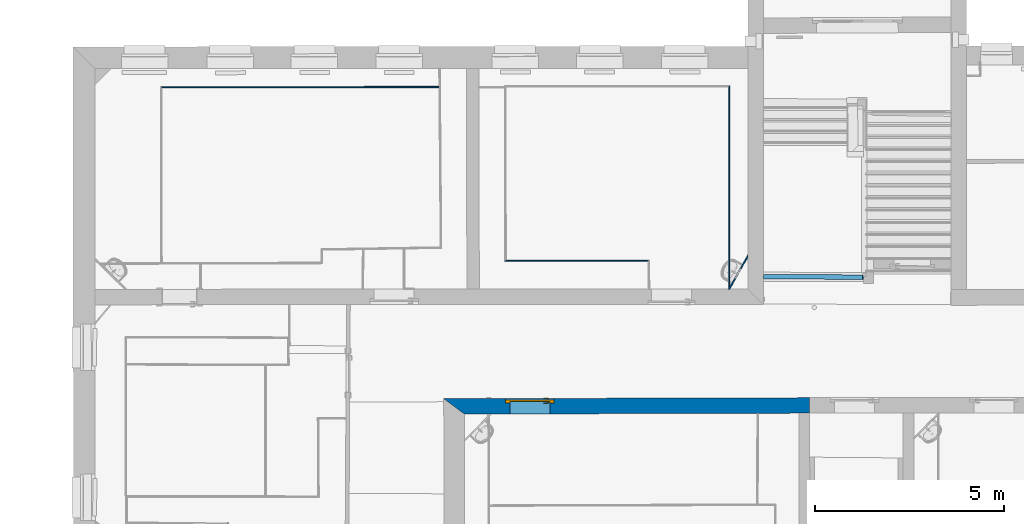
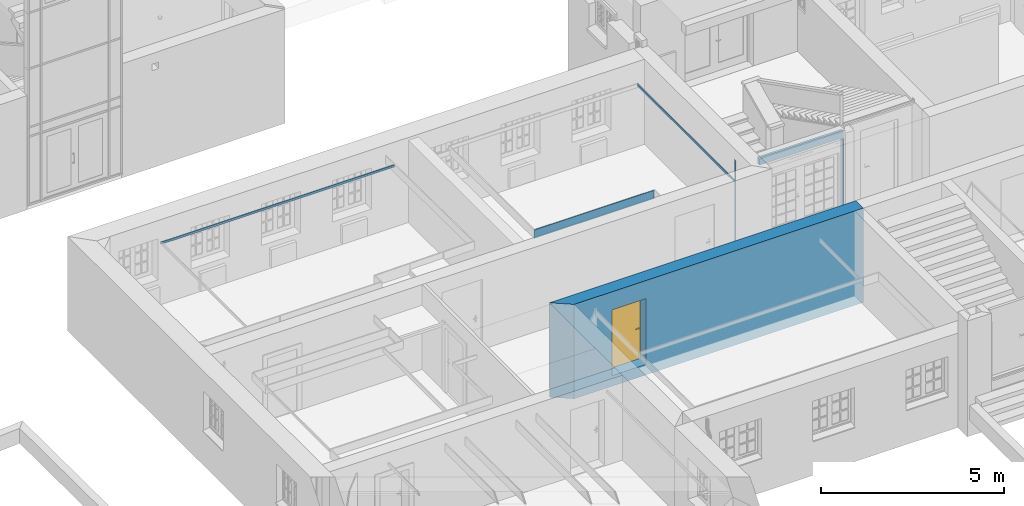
# One storey, part 25 of 196: 6 walls, 1 door, 3 openings.
"""IFC2X3 building model written with IfcOpenShell, lengths in metres."""

from ifc_helpers import new_model, entity, si_unit, converted_unit, derived_unit, money_unit, direction, frame, origin_with_axes, origin_2d_with_axis, place, context, subcontext, project, spatial, polyline, rectangle, outline, extrude, faceted_brep, source, transform, mapped, material, layer, layer_set, layer_usage, type_object, element, fill, save


model = new_model("IFC2X3")

# Units and contexts
model_context = context("Model", 3, precision=1e-05, world=origin_with_axes(), true_north=direction((0.0, 1.0)))
body_context = subcontext(model_context, "Body", "Model", "MODEL_VIEW")
ifc_project = project(units=[si_unit("LENGTHUNIT", "METRE"), si_unit("AREAUNIT", "SQUARE_METRE"), si_unit("VOLUMEUNIT", "CUBIC_METRE"), converted_unit("PLANEANGLEUNIT", "DEGREE", entity("IfcPlaneAngleMeasure", 0.0174532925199), si_unit("PLANEANGLEUNIT", "RADIAN"), dimensions=[0, 0, 0, 0, 0, 0, 0]), money_unit("EUR"), converted_unit("TIMEUNIT", "Year", entity("IfcTimeMeasure", 31556926.0), si_unit("TIMEUNIT", "SECOND"), dimensions=[0, 0, 1, 0, 0, 0, 0]), si_unit("MASSUNIT", "GRAM", prefix="KILO"), si_unit("THERMODYNAMICTEMPERATUREUNIT", "DEGREE_CELSIUS"), si_unit("LUMINOUSINTENSITYUNIT", "LUMEN"), si_unit("ENERGYUNIT", "JOULE", prefix="MEGA"), derived_unit("THERMALCONDUCTANCEUNIT", [(si_unit("POWERUNIT", "WATT"), 1), (si_unit("LENGTHUNIT", "METRE"), -1), (si_unit("THERMODYNAMICTEMPERATUREUNIT", "KELVIN"), -1)]), derived_unit("SPECIFICHEATCAPACITYUNIT", [(si_unit("ENERGYUNIT", "JOULE"), 1), (si_unit("MASSUNIT", "GRAM", prefix="KILO"), -1), (si_unit("THERMODYNAMICTEMPERATUREUNIT", "KELVIN"), -1)]), derived_unit("MASSDENSITYUNIT", [(si_unit("MASSUNIT", "GRAM", prefix="KILO"), 1), (si_unit("VOLUMEUNIT", "CUBIC_METRE"), -1)])], contexts=[model_context])

# Site, building, storey
site_placement = place(None, origin_with_axes())
site = spatial("IfcSite", under=ifc_project, at=site_placement, Name="Gelände", CompositionType="ELEMENT")
building_placement = place(site_placement, origin_with_axes())
building = spatial("IfcBuilding", under=site, at=building_placement, Name="Gebäude", CompositionType="ELEMENT")
storey_placement = place(building_placement, frame((0.0, 0.0, -3.0), z_axis=(0.0, 0.0, 1.0), x_axis=(1.0, 0.0, 0.0)))
storey = spatial("IfcBuildingStorey", under=building, at=storey_placement, Name="KELLERGESCHOSS", CompositionType="ELEMENT", Elevation=-3.0)

# Wall, opening
ifc_material_1 = material(Name="05_ALLGEMEIN - TRAGENDE BAUTEILE")
ifc_layer_1 = layer(ifc_material_1, 0.12, ventilated="UNKNOWN")
ifc_layer_set_1 = layer_set([ifc_layer_1], Name="05_ALLGEMEIN - TRAGENDE BAUTEILE 0.12")
ifc_layer_usage_1 = layer_usage(ifc_layer_set_1, "AXIS2", "NEGATIVE", 0.12)
wall_type_1 = type_object("IfcWallType", Name="05_ALLGEMEIN - TRAGENDE BAUTEILE 120", PredefinedType="ELEMENTEDWALL")
wall_1_placement = place(storey_placement, frame((-9.84154445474, 19.9397256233, -0.36), z_axis=(0.0, 0.0, 1.0), x_axis=(0.999998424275, -0.00177523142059, 0.0)))
wall_1 = element("IfcWallStandardCase", 1, at=wall_1_placement, inside=storey, type_object=wall_type_1, material=ifc_layer_usage_1, Name="Wand-038", ObjectType="ELEMENTEDWALL", context=body_context, shape_type="SweptSolid", body=[
    extrude(outline(polyline([(0.0, 0.0), (2.64868217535, 0.0), (2.64846914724, 0.12), (-0.000224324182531, 0.12), (0.0, 0.0)])), origin_with_axes(), (0.0, 0.0, 1.0), 3.065),
])
opening_1_placement = place(wall_1_placement, frame((1.31235316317, 0.0, 0.326736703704), z_axis=(0.0, 0.0, 1.0), x_axis=(1.0, 0.0, 0.0)))
element("IfcOpeningElement", 2, at=opening_1_placement, cuts=wall_1, Name="Tür-023", context=body_context, shape_type="SweptSolid", body=[
    extrude(rectangle(XDim=2.62758657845, YDim=2.53, at=origin_2d_with_axis()), frame((0.0, 0.12, 1.265), z_axis=(0.0, 1.0, 0.0), x_axis=(-1.0, 0.0, 0.0)), (0.0, 0.0, -1.0), 0.36),
])

ifc_material_2 = material(Name="43_Gipskarton")
ifc_layer_2 = layer(ifc_material_2, 0.03, ventilated="UNKNOWN")
ifc_layer_set_2 = layer_set([ifc_layer_2], Name="43_Gipskarton 0.03")
ifc_layer_usage_2 = layer_usage(ifc_layer_set_2, "AXIS2", "NEGATIVE", 0.0)
wall_type_2 = type_object("IfcWallType", Name="43_Gipskarton 30", PredefinedType="ELEMENTEDWALL")
wall_2_placement = place(storey_placement, frame((-10.9995468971, 19.2656639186, -0.0458857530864), z_axis=(0.0, 0.0, 1.0), x_axis=(0.493160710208, 0.86993822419, 0.0)))
wall_2 = element("IfcWallStandardCase", 3, at=wall_2_placement, inside=storey, type_object=wall_type_2, material=ifc_layer_usage_2, Name="Wand-038", ObjectType="ELEMENTEDWALL", context=body_context, shape_type="SweptSolid", body=[
    extrude(outline(polyline([(0.488389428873, -0.03), (1.46372016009, -0.03), (1.51662871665, 0.0), (0.47137171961, 0.0), (0.488389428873, -0.03)])), origin_with_axes(), (0.0, 0.0, 1.0), 2.48588575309),
])
opening_2_placement = place(wall_2_placement, frame((0.952164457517, 0.0, 0.118209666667), z_axis=(0.0, 0.0, 1.0), x_axis=(1.0, 0.0, 0.0)))
element("IfcOpeningElement", 4, at=opening_2_placement, cuts=wall_2, Name="Tür-022", context=body_context, shape_type="SweptSolid", body=[
    extrude(rectangle(XDim=0.302127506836, YDim=0.291513, at=origin_2d_with_axis()), frame((0.0, 0.03, 0.1457565), z_axis=(0.0, -1.0, 0.0), x_axis=(1.0, 0.0, 0.0)), (0.0, 0.0, 1.0), 0.09),
])

# Walls
ifc_layer_usage_3 = layer_usage(ifc_layer_set_2, "AXIS2", "NEGATIVE", 0.0)
wall_3_placement = place(storey_placement, frame((-18.4316939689, 25.0137516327, 2.37), z_axis=(0.0, 0.0, 1.0), x_axis=(-0.999999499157, -0.00100084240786, 0.0)))
element("IfcWallStandardCase", 5, at=wall_3_placement, inside=storey, type_object=wall_type_2, material=ifc_layer_usage_3, Name="Wand-043", ObjectType="ELEMENTEDWALL", context=body_context, shape_type="SweptSolid", body=[
    extrude(outline(polyline([(0.000212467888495, -0.03), (7.37599516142, -0.03), (7.34597285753, 0.0), (0.0, 0.0), (0.000212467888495, -0.03)])), origin_with_axes(), (0.0, 0.0, 1.0), 0.07),
])
ifc_layer_usage_4 = layer_usage(ifc_layer_set_2, "AXIS2", "NEGATIVE", 0.0)
wall_4_placement = place(storey_placement, frame((-16.657180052, 20.4414497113, 2.16), z_axis=(0.0, 0.0, 1.0), x_axis=(0.99999988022, 0.000489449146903, 0.0)))
element("IfcWallStandardCase", 6, at=wall_4_placement, inside=storey, type_object=wall_type_2, material=ifc_layer_usage_4, Name="Wand-043", ObjectType="ELEMENTEDWALL", context=body_context, shape_type="SweptSolid", body=[
    extrude(outline(polyline([(-0.0299651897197, -0.03), (3.75866662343, -0.03), (3.78811418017, 0.0), (0.0, 0.0), (-0.0299651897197, -0.03)])), origin_with_axes(), (0.0, 0.0, 1.0), 0.28),
])
ifc_layer_usage_5 = layer_usage(ifc_layer_set_2, "AXIS2", "NEGATIVE", 0.0)
wall_5_placement = place(storey_placement, frame((-10.7570291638, 19.6934665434, 2.37), z_axis=(0.0, 0.0, 1.0), x_axis=(-0.000943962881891, 0.999999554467, 0.0)))
element("IfcWallStandardCase", 7, at=wall_5_placement, inside=storey, type_object=wall_type_2, material=ifc_layer_usage_5, Name="Wand-045", ObjectType="ELEMENTEDWALL", context=body_context, shape_type="SweptSolid", body=[
    extrude(outline(polyline([(0.0528039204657, -0.03), (5.36988649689, -0.03), (5.33993836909, 0.0), (0.0, 0.0), (0.0528039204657, -0.03)])), origin_with_axes(), (0.0, 0.0, 1.0), 0.07),
])

# Wall, opening, door
ifc_layer_3 = layer(ifc_material_1, 0.41, ventilated="UNKNOWN")
ifc_layer_set_3 = layer_set([ifc_layer_3], Name="05_ALLGEMEIN - TRAGENDE BAUTEILE 0.41")
ifc_layer_usage_6 = layer_usage(ifc_layer_set_3, "AXIS2", "POSITIVE", -0.41)
wall_type_3 = type_object("IfcWallType", Name="05_ALLGEMEIN - TRAGENDE BAUTEILE 410", PredefinedType="ELEMENTEDWALL")
wall_6_placement = place(storey_placement, frame((-17.7617231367, 16.7753739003, -0.36), z_axis=(0.0, 0.0, 1.0), x_axis=(0.999996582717, 0.0026142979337, 0.0)))
wall_6 = element("IfcWallStandardCase", 8, at=wall_6_placement, inside=storey, type_object=wall_type_3, material=ifc_layer_usage_6, Name="Wand-037", ObjectType="ELEMENTEDWALL", context=body_context, shape_type="SweptSolid", body=[
    extrude(outline(polyline([(-0.000277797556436, -0.41), (9.14542169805, -0.41), (9.14577371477, 0.0), (-0.547000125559, 0.0), (-0.000277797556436, -0.41)])), origin_with_axes(), (0.0, 0.0, 1.0), 3.15),
])
opening_3_placement = place(wall_6_placement, frame((1.73514687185, 0.0, 0.347304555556), z_axis=(0.0, 0.0, 1.0), x_axis=(1.0, 0.0, 0.0)))
opening_3 = element("IfcOpeningElement", 9, at=opening_3_placement, cuts=wall_6, Name="Tür-022", context=body_context, shape_type="SweptSolid", body=[
    extrude(rectangle(XDim=1.06444475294, YDim=2.200287, at=origin_2d_with_axis()), frame((0.0, -0.12, 1.1001435), z_axis=(0.0, -1.0, 0.0), x_axis=(-1.0, 0.0, 0.0)), (0.0, 0.0, 1.0), 0.7),
    extrude(rectangle(XDim=1.28444475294, YDim=2.310287, at=origin_2d_with_axis()), frame((0.0, -0.04, 1.1551435), z_axis=(0.0, 1.0, 0.0), x_axis=(-1.0, 0.0, 0.0)), (0.0, 0.0, -1.0), 0.08),
    extrude(rectangle(XDim=1.28444475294, YDim=2.310287, at=origin_2d_with_axis()), frame((0.0, -0.04, 1.1551435), z_axis=(0.0, 1.0, 0.0), x_axis=(-1.0, 0.0, 0.0)), (0.0, 0.0, 1.0), 0.45),
])
door_style = type_object("IfcDoorStyle", Name="Blockrahmentür 1-Fl 25", ConstructionType="NOTDEFINED", OperationType="SINGLE_SWING_LEFT", ParameterTakesPrecedence=False, Sizeable=False)
shared_shape = source(origin_with_axes(), body_context, "Body", "Brep", [
    faceted_brep([(-0.642222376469, -0.08, 0.0), (-0.642222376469, -0.08, 2.310287), (-0.642222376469, -0.04, 2.310287), (-0.642222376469, -0.04, 0.0), (-0.532222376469, -0.08, 0.0), (-0.532222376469, -0.08, 2.200287), (-0.1121, -0.08, 2.200287), (-0.0001, -0.08, 2.200287), (0.532222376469, -0.08, 2.200287), (0.532222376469, -0.08, 0.0), (0.642222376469, -0.08, 0.0), (0.642222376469, -0.08, 2.310287), (0.642222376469, -0.04, 2.310287), (0.642222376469, -0.04, 0.0), (0.532222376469, -0.04, 0.0), (0.532222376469, -0.04, 2.200287), (-0.0001, -0.04, 2.200287), (-0.1121, -0.04, 2.200287), (-0.532222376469, -0.04, 2.200287), (-0.532222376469, -0.04, 0.0)], [[[0, 1, 2, 3]], [[0, 4, 5, 6, 7, 8, 9, 10, 11, 1]], [[1, 11, 12, 2]], [[3, 2, 12, 13, 14, 15, 16, 17, 18, 19]], [[4, 0, 3, 19]], [[5, 4, 19, 18]], [[6, 5, 18, 17]], [[7, 6, 17, 16]], [[8, 7, 16, 15]], [[9, 8, 15, 14]], [[10, 9, 14, 13]], [[11, 10, 13, 12]]]),
    faceted_brep([(-0.642222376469, -0.04, 0.0), (-0.642222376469, -0.04, 2.310287), (-0.642222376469, 0.0, 2.310287), (-0.642222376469, 0.0, 0.0), (-0.544222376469, -0.04, 0.0), (-0.544222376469, -0.04, 2.212287), (-0.1001, -0.04, 2.212287), (-0.0121, -0.04, 2.212287), (0.544222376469, -0.04, 2.212287), (0.544222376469, -0.04, 0.0), (0.642222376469, -0.04, 0.0), (0.642222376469, -0.04, 2.310287), (0.642222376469, 0.0, 2.310287), (0.642222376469, 0.0, 0.0), (0.544222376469, 0.0, 0.0), (0.544222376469, 0.0, 2.212287), (-0.0121, 0.0, 2.212287), (-0.1001, 0.0, 2.212287), (-0.544222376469, 0.0, 2.212287), (-0.544222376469, 0.0, 0.0)], [[[0, 1, 2, 3]], [[0, 4, 5, 6, 7, 8, 9, 10, 11, 1]], [[1, 11, 12, 2]], [[3, 2, 12, 13, 14, 15, 16, 17, 18, 19]], [[4, 0, 3, 19]], [[5, 4, 19, 18]], [[6, 5, 18, 17]], [[7, 6, 17, 16]], [[8, 7, 16, 15]], [[9, 8, 15, 14]], [[10, 9, 14, 13]], [[11, 10, 13, 12]]]),
    faceted_brep([(-0.544222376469, -0.004, 0.0), (-0.544222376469, -0.004, 2.212287), (0.544222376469, -0.004, 2.212287), (0.544222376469, -0.004, 0.0), (-0.544222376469, -0.04, 0.0), (-0.544222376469, -0.04, 2.212287), (0.544222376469, -0.04, 2.212287), (0.544222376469, -0.04, 0.0)], [[[0, 1, 2, 3]], [[0, 4, 5, 1]], [[1, 5, 6, 2]], [[2, 6, 7, 3]], [[3, 7, 4, 0]], [[7, 6, 5, 4]]]),
    faceted_brep([(0.488924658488, -0.08, 1.05647213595), (0.488924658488, -0.06, 1.05647213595), (0.484222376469, -0.06, 1.058), (0.484222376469, -0.08, 1.058), (0.4918308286, -0.08, 1.05247213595), (0.4918308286, -0.06, 1.05247213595), (0.490100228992, -0.058, 1.05809016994), (0.484222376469, -0.058, 1.06), (0.479520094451, -0.06, 1.05647213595), (0.479520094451, -0.08, 1.05647213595), (0.476613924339, -0.08, 1.05247213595), (0.476613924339, -0.08, 1.04752786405), (0.479520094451, -0.08, 1.04352786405), (0.484222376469, -0.08, 1.042), (0.488924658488, -0.08, 1.04352786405), (0.4918308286, -0.08, 1.04752786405), (0.4918308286, -0.06, 1.04752786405), (0.493732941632, -0.058, 1.05309016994), (0.490100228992, -0.05, 1.05809016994), (0.484222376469, -0.05, 1.06), (0.478344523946, -0.058, 1.05809016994), (0.476613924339, -0.06, 1.05247213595), (0.476613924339, -0.06, 1.04752786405), (0.479520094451, -0.06, 1.04352786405), (0.484222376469, -0.06, 1.042), (0.488924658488, -0.06, 1.04352786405), (0.493732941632, -0.058, 1.04690983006), (0.493732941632, -0.05, 1.05309016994), (0.493732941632, -0.05, 1.04690983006), (0.490100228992, -0.05, 1.04190983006), (0.484222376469, -0.05, 1.04), (0.478344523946, -0.05, 1.04190983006), (0.474711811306, -0.05, 1.04690983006), (0.474711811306, -0.05, 1.05309016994), (0.478344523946, -0.05, 1.05809016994), (0.474711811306, -0.058, 1.05309016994), (0.474711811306, -0.058, 1.04690983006), (0.478344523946, -0.058, 1.04190983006), (0.484222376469, -0.058, 1.04), (0.490100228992, -0.058, 1.04190983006)], [[[0, 1, 2, 3]], [[4, 5, 1, 0]], [[1, 6, 7, 2]], [[3, 2, 8, 9]], [[3, 9, 10, 11, 12, 13, 14, 15, 4, 0]], [[15, 16, 5, 4]], [[5, 17, 6, 1]], [[6, 18, 19, 7]], [[2, 7, 20, 8]], [[9, 8, 21, 10]], [[10, 21, 22, 11]], [[11, 22, 23, 12]], [[12, 23, 24, 13]], [[13, 24, 25, 14]], [[14, 25, 16, 15]], [[16, 26, 17, 5]], [[17, 27, 18, 6]], [[19, 18, 27, 28, 29, 30, 31, 32, 33, 34]], [[7, 19, 34, 20]], [[8, 20, 35, 21]], [[21, 35, 36, 22]], [[22, 36, 37, 23]], [[23, 37, 38, 24]], [[24, 38, 39, 25]], [[25, 39, 26, 16]], [[26, 28, 27, 17]], [[39, 29, 28, 26]], [[38, 30, 29, 39]], [[37, 31, 30, 38]], [[36, 32, 31, 37]], [[35, 33, 32, 36]], [[20, 34, 33, 35]]]),
    faceted_brep([(0.472033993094, -0.05, 1.11759695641), (0.467422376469, -0.05, 1.11), (0.461722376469, -0.05, 1.11), (0.461722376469, -0.05, 0.89), (0.467422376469, -0.05, 0.89), (0.472033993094, -0.05, 0.882403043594), (0.479778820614, -0.05, 0.878044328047), (0.488665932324, -0.05, 0.878044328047), (0.496410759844, -0.05, 0.882403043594), (0.501022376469, -0.05, 0.89), (0.506722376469, -0.05, 0.89), (0.506722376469, -0.05, 1.11), (0.501022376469, -0.05, 1.11), (0.496410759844, -0.05, 1.11759695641), (0.488665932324, -0.05, 1.12195567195), (0.479778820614, -0.05, 1.12195567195), (0.484222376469, -0.05, 0.967425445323), (0.489597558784, -0.05, 0.965143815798), (0.491690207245, -0.05, 0.959692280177), (0.489222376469, -0.05, 0.9544), (0.489222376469, -0.05, 0.9375), (0.487757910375, -0.05, 0.933964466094), (0.484222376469, -0.05, 0.9325), (0.480686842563, -0.05, 0.933964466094), (0.479222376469, -0.05, 0.9375), (0.479222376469, -0.05, 0.9544), (0.476754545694, -0.05, 0.959692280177), (0.478847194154, -0.05, 0.965143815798), (0.472033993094, -0.04, 1.11759695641), (0.467422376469, -0.04, 1.11), (0.461722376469, -0.04, 1.11), (0.461722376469, -0.04, 0.89), (0.467422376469, -0.04, 0.89), (0.472033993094, -0.04, 0.882403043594), (0.479778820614, -0.04, 0.878044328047), (0.488665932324, -0.04, 0.878044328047), (0.496410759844, -0.04, 0.882403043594), (0.501022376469, -0.04, 0.89), (0.506722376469, -0.04, 0.89), (0.506722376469, -0.04, 1.11), (0.501022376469, -0.04, 1.11), (0.496410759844, -0.04, 1.11759695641), (0.488665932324, -0.04, 1.12195567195), (0.479778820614, -0.04, 1.12195567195), (0.484222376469, -0.04, 0.967425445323), (0.489597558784, -0.04, 0.965143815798), (0.491690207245, -0.04, 0.959692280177), (0.489222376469, -0.04, 0.9544), (0.489222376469, -0.04, 0.9375), (0.487757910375, -0.04, 0.933964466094), (0.484222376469, -0.04, 0.9325), (0.480686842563, -0.04, 0.933964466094), (0.479222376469, -0.04, 0.9375), (0.479222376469, -0.04, 0.9544), (0.476754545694, -0.04, 0.959692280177), (0.478847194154, -0.04, 0.965143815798)], [[[0, 1, 2, 3, 4, 5, 6, 7, 8, 9, 10, 11, 12, 13, 14, 15], [16, 17, 18, 19, 20, 21, 22, 23, 24, 25, 26, 27]], [[0, 28, 29, 1]], [[1, 29, 30, 2]], [[2, 30, 31, 3]], [[3, 31, 32, 4]], [[4, 32, 33, 5]], [[5, 33, 34, 6]], [[6, 34, 35, 7]], [[7, 35, 36, 8]], [[8, 36, 37, 9]], [[9, 37, 38, 10]], [[10, 38, 39, 11]], [[11, 39, 40, 12]], [[12, 40, 41, 13]], [[13, 41, 42, 14]], [[14, 42, 43, 15]], [[15, 43, 28, 0]], [[16, 44, 45, 17]], [[17, 45, 46, 18]], [[18, 46, 47, 19]], [[47, 48, 20, 19]], [[21, 20, 48, 49]], [[22, 21, 49, 50]], [[23, 22, 50, 51]], [[24, 23, 51, 52]], [[25, 24, 52, 53]], [[25, 53, 54, 26]], [[26, 54, 55, 27]], [[27, 55, 44, 16]], [[32, 31, 30, 29, 28, 43, 42, 41, 40, 39, 38, 37, 36, 35, 34, 33], [46, 45, 44, 55, 54, 53, 52, 51, 50, 49, 48, 47]]]),
    faceted_brep([(0.369969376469, -0.08, 1.057158), (0.369967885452, -0.08, 1.05719388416), (0.369967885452, -0.095, 1.05719388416), (0.369969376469, -0.095, 1.057158), (0.39699700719, -0.08, 1.06432652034), (0.424825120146, -0.08, 1.06706086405), (0.452731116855, -0.08, 1.06529002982), (0.479990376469, -0.08, 1.05906), (0.486392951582, -0.08, 1.05976125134), (0.491895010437, -0.08, 1.05641280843), (0.49421388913, -0.08, 1.05040385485), (0.492387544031, -0.08, 1.04422735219), (0.487173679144, -0.08, 1.04044577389), (0.480735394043, -0.08, 1.04062800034), (0.475743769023, -0.08, 1.04469843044), (0.475764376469, -0.08, 1.044666), (0.450475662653, -0.08, 1.05019878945), (0.424633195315, -0.08, 1.05171460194), (0.398871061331, -0.08, 1.04917624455), (0.373821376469, -0.08, 1.042646), (0.368278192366, -0.08, 1.04356849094), (0.364916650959, -0.08, 1.04807159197), (0.365608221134, -0.08, 1.05364829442), (0.365608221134, -0.095, 1.05364829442), (0.364916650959, -0.095, 1.04807159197), (0.368278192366, -0.095, 1.04356849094), (0.373821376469, -0.095, 1.042646), (0.398871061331, -0.095, 1.04917624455), (0.424633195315, -0.095, 1.05171460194), (0.450475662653, -0.095, 1.05019878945), (0.475764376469, -0.095, 1.044666), (0.475743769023, -0.095, 1.04469843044), (0.480735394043, -0.095, 1.04062800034), (0.487173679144, -0.095, 1.04044577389), (0.492387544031, -0.095, 1.04422735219), (0.49421388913, -0.095, 1.05040385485), (0.491895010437, -0.095, 1.05641280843), (0.486392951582, -0.095, 1.05976125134), (0.479990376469, -0.095, 1.05906), (0.452731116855, -0.095, 1.06529002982), (0.424825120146, -0.095, 1.06706086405), (0.39699700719, -0.095, 1.06432652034)], [[[0, 1, 2, 3]], [[0, 4, 5, 6, 7, 8, 9, 10, 11, 12, 13, 14, 15, 16, 17, 18, 19, 20, 21, 22, 1]], [[1, 22, 23, 2]], [[3, 2, 23, 24, 25, 26, 27, 28, 29, 30, 31, 32, 33, 34, 35, 36, 37, 38, 39, 40, 41]], [[4, 0, 3, 41]], [[5, 4, 41, 40]], [[6, 5, 40, 39]], [[7, 6, 39, 38]], [[8, 7, 38, 37]], [[9, 8, 37, 36]], [[10, 9, 36, 35]], [[11, 10, 35, 34]], [[12, 11, 34, 33]], [[13, 12, 33, 32]], [[14, 13, 32, 31]], [[15, 14, 31, 30]], [[16, 15, 30, 29]], [[17, 16, 29, 28]], [[18, 17, 28, 27]], [[19, 18, 27, 26]], [[20, 19, 26, 25]], [[21, 20, 25, 24]], [[22, 21, 24, 23]]]),
    faceted_brep([(0.488924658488, 0.036, 1.05647213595), (0.484222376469, 0.036, 1.058), (0.484222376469, 0.016, 1.058), (0.488924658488, 0.016, 1.05647213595), (0.4918308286, 0.036, 1.05247213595), (0.4918308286, 0.036, 1.04752786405), (0.488924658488, 0.036, 1.04352786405), (0.484222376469, 0.036, 1.042), (0.479520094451, 0.036, 1.04352786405), (0.476613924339, 0.036, 1.04752786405), (0.476613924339, 0.036, 1.05247213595), (0.479520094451, 0.036, 1.05647213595), (0.479520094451, 0.016, 1.05647213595), (0.484222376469, 0.014, 1.06), (0.490100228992, 0.014, 1.05809016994), (0.4918308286, 0.016, 1.05247213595), (0.4918308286, 0.016, 1.04752786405), (0.488924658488, 0.016, 1.04352786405), (0.484222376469, 0.016, 1.042), (0.479520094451, 0.016, 1.04352786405), (0.476613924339, 0.016, 1.04752786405), (0.476613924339, 0.016, 1.05247213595), (0.478344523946, 0.014, 1.05809016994), (0.484222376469, 0.006, 1.06), (0.490100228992, 0.006, 1.05809016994), (0.493732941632, 0.014, 1.05309016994), (0.493732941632, 0.014, 1.04690983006), (0.490100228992, 0.014, 1.04190983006), (0.484222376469, 0.014, 1.04), (0.478344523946, 0.014, 1.04190983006), (0.474711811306, 0.014, 1.04690983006), (0.474711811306, 0.014, 1.05309016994), (0.478344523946, 0.006, 1.05809016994), (0.474711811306, 0.006, 1.05309016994), (0.474711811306, 0.006, 1.04690983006), (0.478344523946, 0.006, 1.04190983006), (0.484222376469, 0.006, 1.04), (0.490100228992, 0.006, 1.04190983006), (0.493732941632, 0.006, 1.04690983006), (0.493732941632, 0.006, 1.05309016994)], [[[0, 1, 2, 3]], [[1, 0, 4, 5, 6, 7, 8, 9, 10, 11]], [[1, 11, 12, 2]], [[3, 2, 13, 14]], [[4, 0, 3, 15]], [[5, 4, 15, 16]], [[6, 5, 16, 17]], [[7, 6, 17, 18]], [[8, 7, 18, 19]], [[9, 8, 19, 20]], [[10, 9, 20, 21]], [[11, 10, 21, 12]], [[2, 12, 22, 13]], [[14, 13, 23, 24]], [[15, 3, 14, 25]], [[16, 15, 25, 26]], [[17, 16, 26, 27]], [[18, 17, 27, 28]], [[19, 18, 28, 29]], [[20, 19, 29, 30]], [[21, 20, 30, 31]], [[12, 21, 31, 22]], [[13, 22, 32, 23]], [[23, 32, 33, 34, 35, 36, 37, 38, 39, 24]], [[25, 14, 24, 39]], [[26, 25, 39, 38]], [[27, 26, 38, 37]], [[28, 27, 37, 36]], [[29, 28, 36, 35]], [[30, 29, 35, 34]], [[31, 30, 34, 33]], [[22, 31, 33, 32]]]),
    faceted_brep([(0.472033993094, -0.004, 1.11759695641), (0.467422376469, -0.004, 1.11), (0.461722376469, -0.004, 1.11), (0.461722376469, -0.004, 0.89), (0.467422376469, -0.004, 0.89), (0.472033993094, -0.004, 0.882403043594), (0.479778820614, -0.004, 0.878044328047), (0.488665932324, -0.004, 0.878044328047), (0.496410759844, -0.004, 0.882403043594), (0.501022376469, -0.004, 0.89), (0.506722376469, -0.004, 0.89), (0.506722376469, -0.004, 1.11), (0.501022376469, -0.004, 1.11), (0.496410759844, -0.004, 1.11759695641), (0.488665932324, -0.004, 1.12195567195), (0.479778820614, -0.004, 1.12195567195), (0.484222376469, -0.004, 0.967425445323), (0.489597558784, -0.004, 0.965143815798), (0.491690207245, -0.004, 0.959692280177), (0.489222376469, -0.004, 0.9544), (0.489222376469, -0.004, 0.9375), (0.487757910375, -0.004, 0.933964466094), (0.484222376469, -0.004, 0.9325), (0.480686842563, -0.004, 0.933964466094), (0.479222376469, -0.004, 0.9375), (0.479222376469, -0.004, 0.9544), (0.476754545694, -0.004, 0.959692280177), (0.478847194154, -0.004, 0.965143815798), (0.472033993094, 0.006, 1.11759695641), (0.467422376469, 0.006, 1.11), (0.461722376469, 0.006, 1.11), (0.461722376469, 0.006, 0.89), (0.467422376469, 0.006, 0.89), (0.472033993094, 0.006, 0.882403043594), (0.479778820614, 0.006, 0.878044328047), (0.488665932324, 0.006, 0.878044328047), (0.496410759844, 0.006, 0.882403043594), (0.501022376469, 0.006, 0.89), (0.506722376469, 0.006, 0.89), (0.506722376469, 0.006, 1.11), (0.501022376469, 0.006, 1.11), (0.496410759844, 0.006, 1.11759695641), (0.488665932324, 0.006, 1.12195567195), (0.479778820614, 0.006, 1.12195567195), (0.484222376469, 0.006, 0.967425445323), (0.489597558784, 0.006, 0.965143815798), (0.491690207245, 0.006, 0.959692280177), (0.489222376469, 0.006, 0.9544), (0.489222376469, 0.006, 0.9375), (0.487757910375, 0.006, 0.933964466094), (0.484222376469, 0.006, 0.9325), (0.480686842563, 0.006, 0.933964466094), (0.479222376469, 0.006, 0.9375), (0.479222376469, 0.006, 0.9544), (0.476754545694, 0.006, 0.959692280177), (0.478847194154, 0.006, 0.965143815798)], [[[0, 1, 2, 3, 4, 5, 6, 7, 8, 9, 10, 11, 12, 13, 14, 15], [16, 17, 18, 19, 20, 21, 22, 23, 24, 25, 26, 27]], [[28, 29, 1, 0]], [[29, 30, 2, 1]], [[30, 31, 3, 2]], [[31, 32, 4, 3]], [[32, 33, 5, 4]], [[33, 34, 6, 5]], [[34, 35, 7, 6]], [[35, 36, 8, 7]], [[36, 37, 9, 8]], [[37, 38, 10, 9]], [[38, 39, 11, 10]], [[39, 40, 12, 11]], [[40, 41, 13, 12]], [[41, 42, 14, 13]], [[42, 43, 15, 14]], [[43, 28, 0, 15]], [[16, 44, 45, 17]], [[17, 45, 46, 18]], [[18, 46, 47, 19]], [[47, 48, 20, 19]], [[21, 20, 48, 49]], [[22, 21, 49, 50]], [[23, 22, 50, 51]], [[24, 23, 51, 52]], [[25, 24, 52, 53]], [[25, 53, 54, 26]], [[26, 54, 55, 27]], [[27, 55, 44, 16]], [[32, 31, 30, 29, 28, 43, 42, 41, 40, 39, 38, 37, 36, 35, 34, 33], [46, 45, 44, 55, 54, 53, 52, 51, 50, 49, 48, 47]]]),
    faceted_brep([(0.369969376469, 0.036, 1.057158), (0.369969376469, 0.051, 1.057158), (0.369967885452, 0.051, 1.05719388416), (0.369967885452, 0.036, 1.05719388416), (0.39699700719, 0.036, 1.06432652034), (0.39699700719, 0.051, 1.06432652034), (0.424825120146, 0.051, 1.06706086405), (0.452731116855, 0.051, 1.06529002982), (0.479990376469, 0.051, 1.05906), (0.486392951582, 0.051, 1.05976125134), (0.491895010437, 0.051, 1.05641280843), (0.49421388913, 0.051, 1.05040385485), (0.492387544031, 0.051, 1.04422735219), (0.487173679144, 0.051, 1.04044577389), (0.480735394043, 0.051, 1.04062800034), (0.475743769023, 0.051, 1.04469843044), (0.475764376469, 0.051, 1.044666), (0.450475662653, 0.051, 1.05019878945), (0.424633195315, 0.051, 1.05171460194), (0.398871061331, 0.051, 1.04917624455), (0.373821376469, 0.051, 1.042646), (0.368278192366, 0.051, 1.04356849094), (0.364916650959, 0.051, 1.04807159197), (0.365608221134, 0.051, 1.05364829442), (0.365608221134, 0.036, 1.05364829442), (0.364916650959, 0.036, 1.04807159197), (0.368278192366, 0.036, 1.04356849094), (0.373821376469, 0.036, 1.042646), (0.398871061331, 0.036, 1.04917624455), (0.424633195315, 0.036, 1.05171460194), (0.450475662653, 0.036, 1.05019878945), (0.475764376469, 0.036, 1.044666), (0.475743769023, 0.036, 1.04469843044), (0.480735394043, 0.036, 1.04062800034), (0.487173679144, 0.036, 1.04044577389), (0.492387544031, 0.036, 1.04422735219), (0.49421388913, 0.036, 1.05040385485), (0.491895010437, 0.036, 1.05641280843), (0.486392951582, 0.036, 1.05976125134), (0.479990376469, 0.036, 1.05906), (0.452731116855, 0.036, 1.06529002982), (0.424825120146, 0.036, 1.06706086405)], [[[0, 1, 2, 3]], [[4, 5, 1, 0]], [[1, 5, 6, 7, 8, 9, 10, 11, 12, 13, 14, 15, 16, 17, 18, 19, 20, 21, 22, 23, 2]], [[3, 2, 23, 24]], [[0, 3, 24, 25, 26, 27, 28, 29, 30, 31, 32, 33, 34, 35, 36, 37, 38, 39, 40, 41, 4]], [[41, 6, 5, 4]], [[40, 7, 6, 41]], [[39, 8, 7, 40]], [[38, 9, 8, 39]], [[37, 10, 9, 38]], [[36, 11, 10, 37]], [[35, 12, 11, 36]], [[34, 13, 12, 35]], [[33, 14, 13, 34]], [[32, 15, 14, 33]], [[31, 16, 15, 32]], [[30, 17, 16, 31]], [[29, 18, 17, 30]], [[28, 19, 18, 29]], [[27, 20, 19, 28]], [[26, 21, 20, 27]], [[25, 22, 21, 26]], [[24, 23, 22, 25]]]),
])
door_placement = place(opening_3_placement, frame((-0.532222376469, 0.0, 0.0), z_axis=(0.0, 0.0, 1.0), x_axis=(1.0, 0.0, 0.0)))
door = element("IfcDoor", 10, at=door_placement, inside=storey, type_object=door_style, Name="Tür-022", ObjectType="NOTDEFINED", OverallHeight=2.31029, OverallWidth=1.28444, context=body_context, shape_type="MappedRepresentation", body=[
    mapped(shared_shape, transform((0.532222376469, -0.04, 0.0))),
])
fill(opening_3, door)

save(model, "model.ifc")
